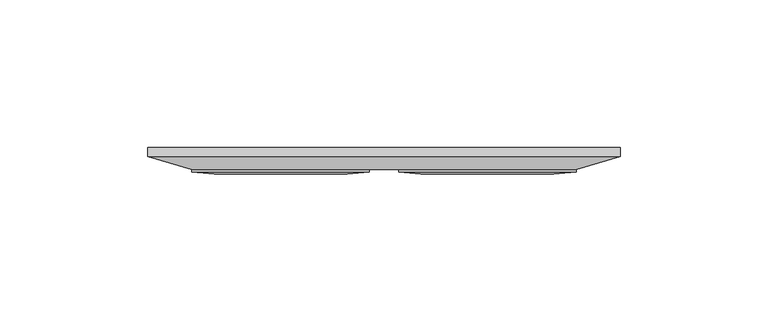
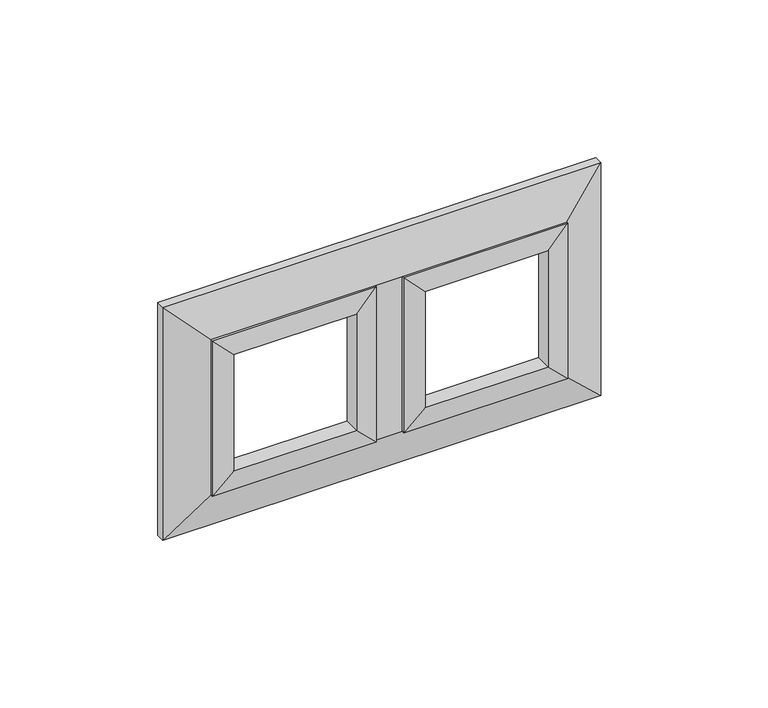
"""IFC4 building model written with IfcOpenShell, lengths in millimetres: proxy geometry."""

from ifc_helpers import new_model, si_unit, origin, place, context, project, spatial, faceted_brep, source, transform, mapped, element, save


def electrical_fixtures_b48138a3(model_context):
    return source(origin(), model_context, "Body", "Brep", [
        faceted_brep([(80.0, 0.0, -45.0), (-80.0, 0.0, -45.0), (-80.0, 0.0, 45.0), (80.0, 0.0, 45.0), (70.5, 0.0, 35.5), (-70.5, 0.0, 35.5), (-70.5, 0.0, -35.5), (70.5, 0.0, -35.5), (80.0, -3.0228771, 45.0), (80.0, -3.0228771, -45.0), (65.0116526, -7.5, 30.0116526), (65.0116526, -7.5, -30.0116526), (-80.0, -3.0228771, 45.0), (-65.0116526, -7.5, 30.0116526), (-4.9883474, -7.5, 30.0116526), (4.9883474, -7.5, 30.0116526), (-80.0, -3.0228771, -45.0), (-65.0116526, -7.5, -30.0116526), (4.9883474, -7.5, -30.0116526), (-4.9883474, -7.5, -30.0116526), (70.5, -3.0, -35.5), (70.5, -3.0, 35.5), (-70.5, -3.0, 35.5), (-70.5, -3.0, -35.5), (-12.5, -3.0, -22.5), (-12.5, -3.0, 22.5), (-57.5, -3.0, 22.5), (-57.5, -3.0, -22.5), (57.5, -3.0, -22.5), (57.5, -3.0, 22.5), (12.5, -3.0, 22.5), (12.5, -3.0, -22.5), (-12.5, -9.0, -22.5), (-12.5, -9.0, 22.5), (-57.5, -9.0, 22.5), (-57.5, -9.0, -22.5), (-4.9883474, -8.3, 30.0116526), (-4.9883474, -8.3, -30.0116526), (-65.0116526, -8.3, 30.0116526), (-65.0116526, -8.3, -30.0116526), (57.5, -9.0, -22.5), (57.5, -9.0, 22.5), (12.5, -9.0, 22.5), (12.5, -9.0, -22.5), (65.0116526, -8.3, 30.0116526), (65.0116526, -8.3, -30.0116526), (4.9883474, -8.3, 30.0116526), (4.9883474, -8.3, -30.0116526)], [[[0, 1, 2, 3], [4, 5, 6, 7]], [[0, 3, 8, 9]], [[9, 8, 10, 11]], [[3, 2, 12, 8]], [[10, 8, 12, 13, 14, 15]], [[2, 1, 16, 12]], [[13, 12, 16, 17]], [[1, 0, 9, 16]], [[9, 11, 18, 19, 17, 16]], [[4, 7, 20, 21]], [[5, 4, 21, 22]], [[6, 5, 22, 23]], [[21, 20, 23, 22], [24, 25, 26, 27], [28, 29, 30, 31]], [[7, 6, 23, 20]], [[24, 32, 33, 25]], [[25, 33, 34, 26]], [[26, 34, 35, 27]], [[32, 24, 27, 35]], [[36, 37, 19, 14]], [[33, 32, 37, 36]], [[38, 36, 14, 13]], [[34, 33, 36, 38]], [[39, 38, 13, 17]], [[35, 34, 38, 39]], [[37, 39, 17, 19]], [[32, 35, 39, 37]], [[28, 40, 41, 29]], [[29, 41, 42, 30]], [[30, 42, 43, 31]], [[40, 28, 31, 43]], [[44, 45, 11, 10]], [[41, 40, 45, 44]], [[46, 44, 10, 15]], [[42, 41, 44, 46]], [[47, 46, 15, 18]], [[43, 42, 46, 47]], [[45, 47, 18, 11]], [[40, 43, 47, 45]], [[15, 14, 19, 18]]]),
    ])


if __name__ == "__main__":
    model = new_model("IFC4")
    model_context = context("Model", 3, world=origin())
    ifc_project = project(units=[si_unit("LENGTHUNIT", "METRE", prefix="MILLI")], contexts=[model_context])
    site = spatial("IfcSite", under=ifc_project)
    building = spatial("IfcBuilding", under=site)
    placement = place(None, origin())
    electrical_fixtures_shape = electrical_fixtures_b48138a3(model_context)
    element("IfcBuildingElementProxy", 1, Name="Electrical Fixtures", at=placement, inside=building, context=model_context, shape_type="MappedRepresentation", body=[
        mapped(electrical_fixtures_shape, transform((0.0, 0.0, 0.0), x_axis=(1.0, 0.0, 0.0), y_axis=(0.0, 1.0, 0.0), z_axis=(0.0, 0.0, 1.0))),
    ])
    save(model, "model.ifc")
